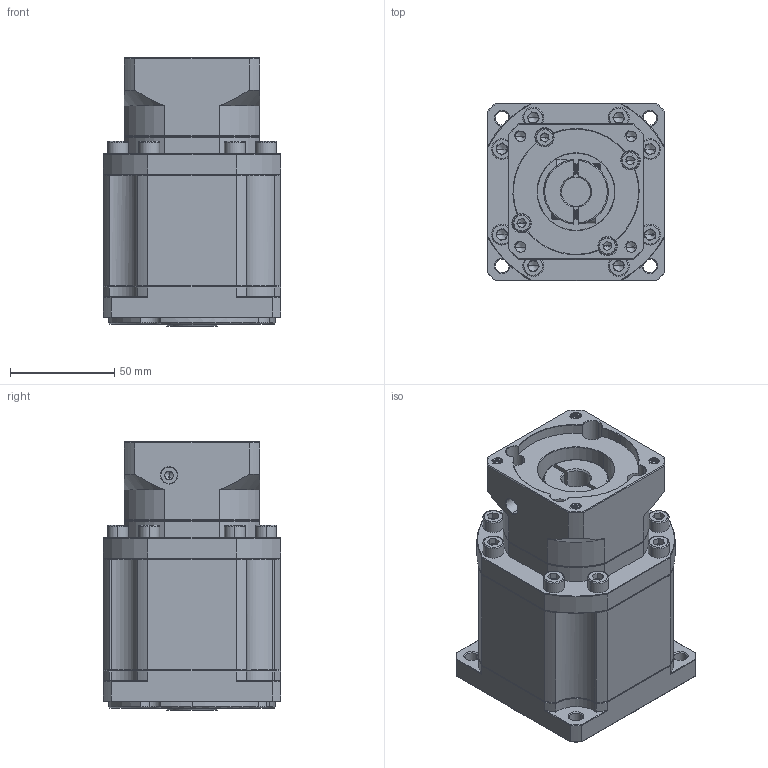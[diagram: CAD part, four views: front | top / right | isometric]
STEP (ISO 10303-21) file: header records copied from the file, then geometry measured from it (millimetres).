
FILE_DESCRIPTION (( 'STEP AP214' ), '1' );
FILE_NAME ('ZB90-K15-L3-14-60-75-M6.STEP', '2022-05-02T15:28:10', ( '' ), ( 'Microsoft' ), 'SwSTEP 2.0', 'SolidWorks 2016', '' );
FILE_SCHEMA (( 'AUTOMOTIVE_DESIGN' ));
Length unit declared in the file: millimetre
Products named in the file (1): ZB90-K15-L3-14-60-75-M6
Bounding box: 85 x 85 x 128.5 mm (x, y, z)
Volume: 642059.1 mm3; surface area: 81163.4 mm2
Topology: 6 solids, 6 shells, 2037 faces, 5352 edges, 3401 vertices
Faces by surface type: plane 998, cylinder 378, cone 321, bspline 318, torus 22
Entity records: 103848 total; most frequent: CARTESIAN_POINT 33621, ORIENTED_EDGE 10616, DIRECTION 8862, EDGE_CURVE 5308, VERTEX_POINT 3401, LINE 3294, VECTOR 3294, AXIS2_PLACEMENT_3D 2784
